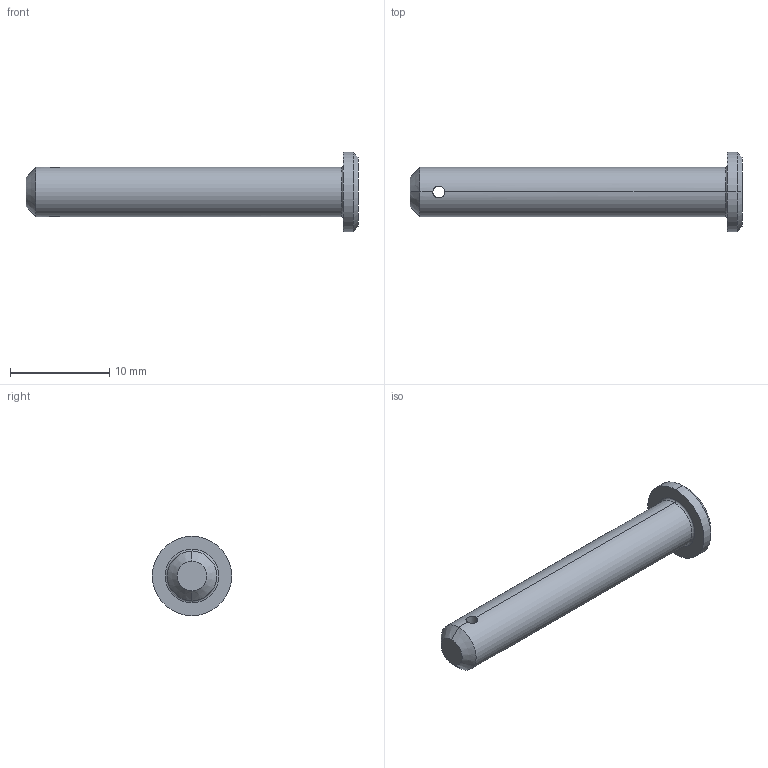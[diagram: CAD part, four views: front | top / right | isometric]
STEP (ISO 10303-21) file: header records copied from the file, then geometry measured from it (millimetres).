
FILE_DESCRIPTION (( 'STEP AP203' ), '1' );
FILE_NAME ('Wiberger-sms2360_5x32.step', '2012-10-09T08:58:03', ( 'Magnus' ), ( 'Wiberger' ), 'SwSTEP 2.0', 'SolidWorks 2011', '' );
FILE_SCHEMA (( 'CONFIG_CONTROL_DESIGN' ));
Length unit declared in the file: millimetre
Products named in the file (1): Wiberger-sms2360_5x32
Bounding box: 33.5 x 8 x 8 mm (x, y, z)
Volume: 688.4 mm3; surface area: 637.7 mm2
Topology: 1 solids, 1 shells, 15 faces, 32 edges, 18 vertices
Faces by surface type: cylinder 6, cone 4, plane 3, torus 2
Entity records: 511 total; most frequent: CARTESIAN_POINT 102, DIRECTION 76, ORIENTED_EDGE 64, EDGE_CURVE 32, AXIS2_PLACEMENT_3D 32, VERTEX_POINT 18, EDGE_LOOP 16, CIRCLE 16
